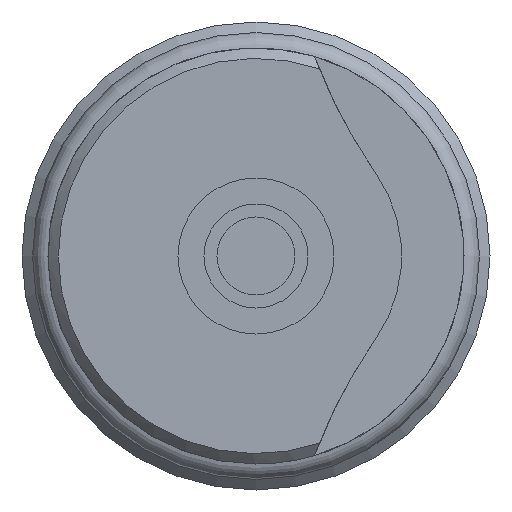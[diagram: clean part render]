
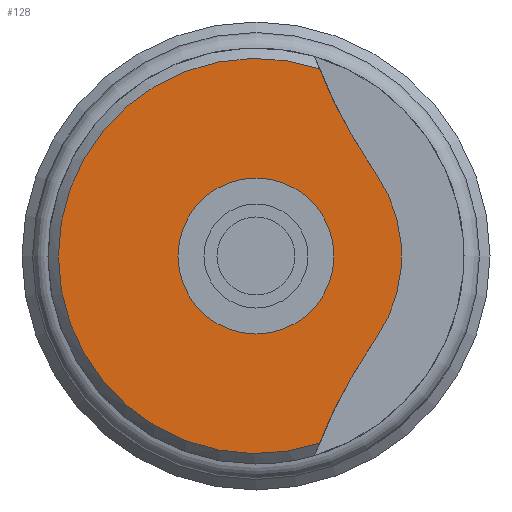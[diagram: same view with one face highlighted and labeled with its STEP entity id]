
A CAD part, left-side view. The second image highlights one B-rep face of the part: STEP entity #128.
In plain terms, the highlighted planar face has unit normal (-1, 0, 0).
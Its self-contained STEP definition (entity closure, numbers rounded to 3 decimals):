
#128 = ADVANCED_FACE( '', ( #284, #285 ), #286, .F. );
#284 = FACE_OUTER_BOUND( '', #461, .T. );
#285 = FACE_BOUND( '', #462, .T. );
#286 = PLANE( '', #463 );
#461 = EDGE_LOOP( '', ( #758, #759, #760, #761 ) );
#462 = EDGE_LOOP( '', ( #762 ) );
#463 = AXIS2_PLACEMENT_3D( '', #763, #764, #765 );
#758 = ORIENTED_EDGE( '', *, *, #985, .F. );
#759 = ORIENTED_EDGE( '', *, *, #1015, .T. );
#760 = ORIENTED_EDGE( '', *, *, #1016, .F. );
#761 = ORIENTED_EDGE( '', *, *, #980, .T. );
#762 = ORIENTED_EDGE( '', *, *, #1017, .T. );
#763 = CARTESIAN_POINT( '', ( 0., 1.5, 0. ) );
#764 = DIRECTION( '', ( 1., 0., 0. ) );
#765 = DIRECTION( '', ( 0., 0., -1. ) );
#980 = EDGE_CURVE( '', #1167, #1165, #1168, .T. );
#985 = EDGE_CURVE( '', #1173, #1165, #1175, .T. );
#1015 = EDGE_CURVE( '', #1173, #1215, #1216, .T. );
#1016 = EDGE_CURVE( '', #1167, #1215, #1217, .T. );
#1017 = EDGE_CURVE( '', #1218, #1218, #1219, .T. );
#1165 = VERTEX_POINT( '', #1411 );
#1167 = VERTEX_POINT( '', #1416 );
#1168 = CIRCLE( '', #1417, 10. );
#1173 = VERTEX_POINT( '', #1423 );
#1175 = CIRCLE( '', #1428, 3.8 );
#1215 = VERTEX_POINT( '', #1481 );
#1216 = CIRCLE( '', #1482, 10. );
#1217 = CIRCLE( '', #1483, 2.8 );
#1218 = VERTEX_POINT( '', #1484 );
#1219 = CIRCLE( '', #1485, 1.5 );
#1411 = CARTESIAN_POINT( '', ( 0., -1.218, 3.6 ) );
#1416 = CARTESIAN_POINT( '', ( 0., -2.317, 1.572 ) );
#1417 = AXIS2_PLACEMENT_3D( '', #1626, #1627, #1628 );
#1423 = CARTESIAN_POINT( '', ( 0., -1.218, -3.6 ) );
#1428 = AXIS2_PLACEMENT_3D( '', #1633, #1634, #1635 );
#1481 = CARTESIAN_POINT( '', ( 0., -2.317, -1.572 ) );
#1482 = AXIS2_PLACEMENT_3D( '', #1667, #1668, #1669 );
#1483 = AXIS2_PLACEMENT_3D( '', #1670, #1671, #1672 );
#1484 = CARTESIAN_POINT( '', ( 0., 0., -1.5 ) );
#1485 = AXIS2_PLACEMENT_3D( '', #1673, #1674, #1675 );
#1626 = CARTESIAN_POINT( '', ( 0., -10.5, 7.32 ) );
#1627 = DIRECTION( '', ( 1., 0., 0. ) );
#1628 = DIRECTION( '', ( 0., 0., -1. ) );
#1633 = CARTESIAN_POINT( '', ( 0., 0., 0. ) );
#1634 = DIRECTION( '', ( 1., 0., 0. ) );
#1635 = DIRECTION( '', ( 0., 0., -1. ) );
#1667 = CARTESIAN_POINT( '', ( 0., -10.5, -7.32 ) );
#1668 = DIRECTION( '', ( 1., 0., 0. ) );
#1669 = DIRECTION( '', ( 0., 0., -1. ) );
#1670 = CARTESIAN_POINT( '', ( 0., 0., 0. ) );
#1671 = DIRECTION( '', ( 1., 0., 0. ) );
#1672 = DIRECTION( '', ( 0., 0., -1. ) );
#1673 = CARTESIAN_POINT( '', ( 0., 0., 0. ) );
#1674 = DIRECTION( '', ( 1., 0., 0. ) );
#1675 = DIRECTION( '', ( 0., 0., -1. ) );
